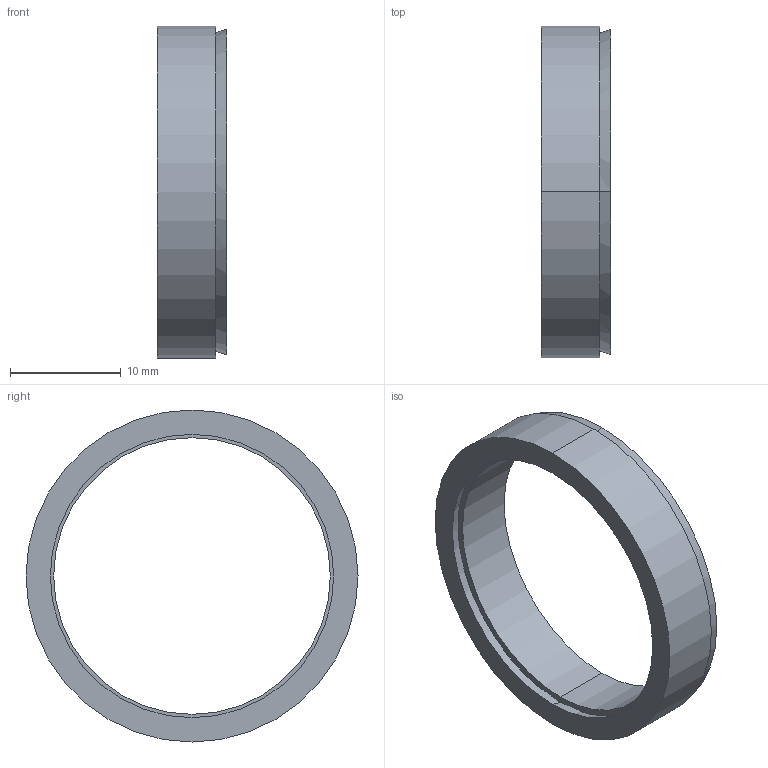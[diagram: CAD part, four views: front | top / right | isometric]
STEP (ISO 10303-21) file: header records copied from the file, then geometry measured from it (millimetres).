
FILE_DESCRIPTION (( 'STEP AP203' ), '1' );
FILE_NAME ('R-25-30.STEP', '2017-11-06T02:13:31', ( 'MYCOM' ), ( '' ), 'SwSTEP 2.0', 'SolidWorks 2015', '' );
FILE_SCHEMA (( 'CONFIG_CONTROL_DESIGN' ));
Length unit declared in the file: millimetre
Products named in the file (1): R-25-30
Bounding box: 6.3 x 30 x 30 mm (x, y, z)
Surface area: 2355.7 mm2 (no closed solid volume)
Topology: 0 solids, 2 shells, 12 faces, 24 edges, 16 vertices
Faces by surface type: cylinder 4, cone 4, plane 4
Entity records: 406 total; most frequent: DIRECTION 66, CARTESIAN_POINT 53, ORIENTED_EDGE 48, AXIS2_PLACEMENT_3D 29, EDGE_CURVE 24, CIRCLE 16, VERTEX_POINT 16, EDGE_LOOP 16
